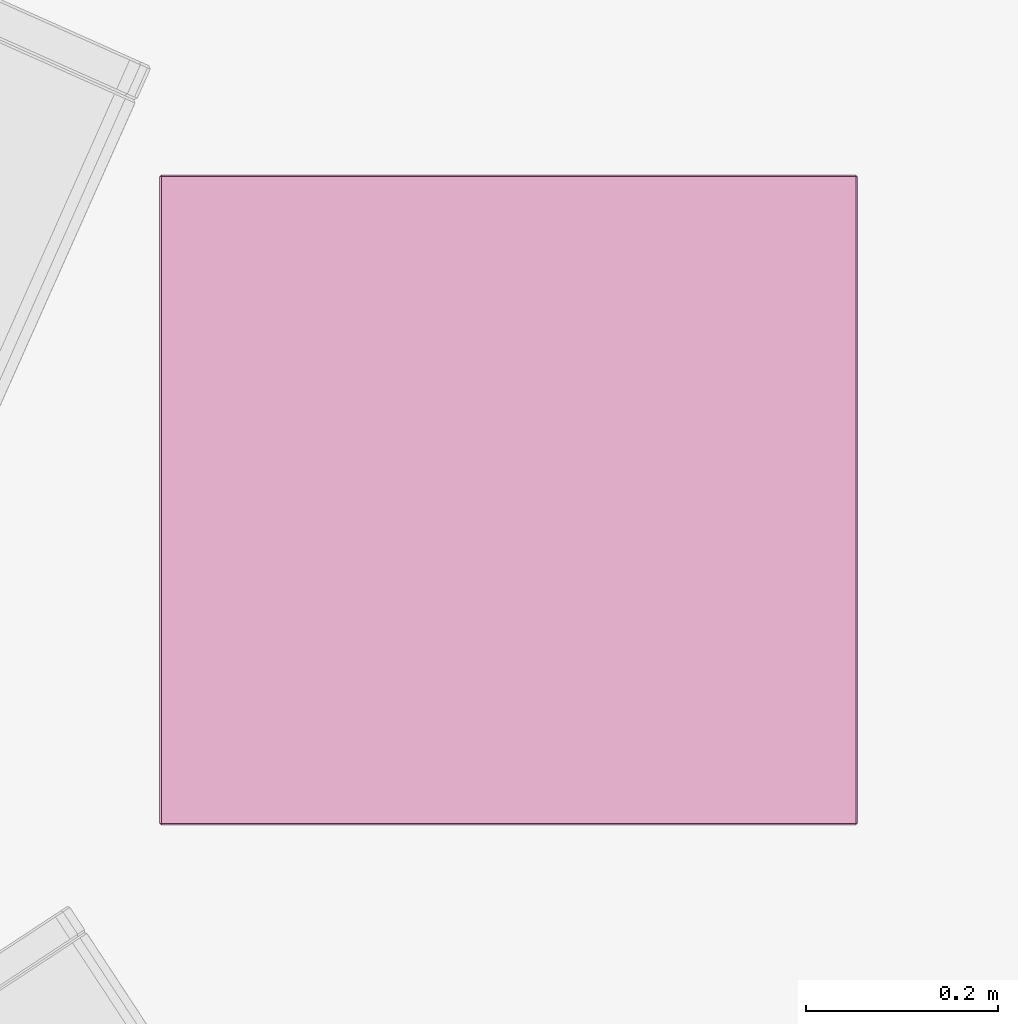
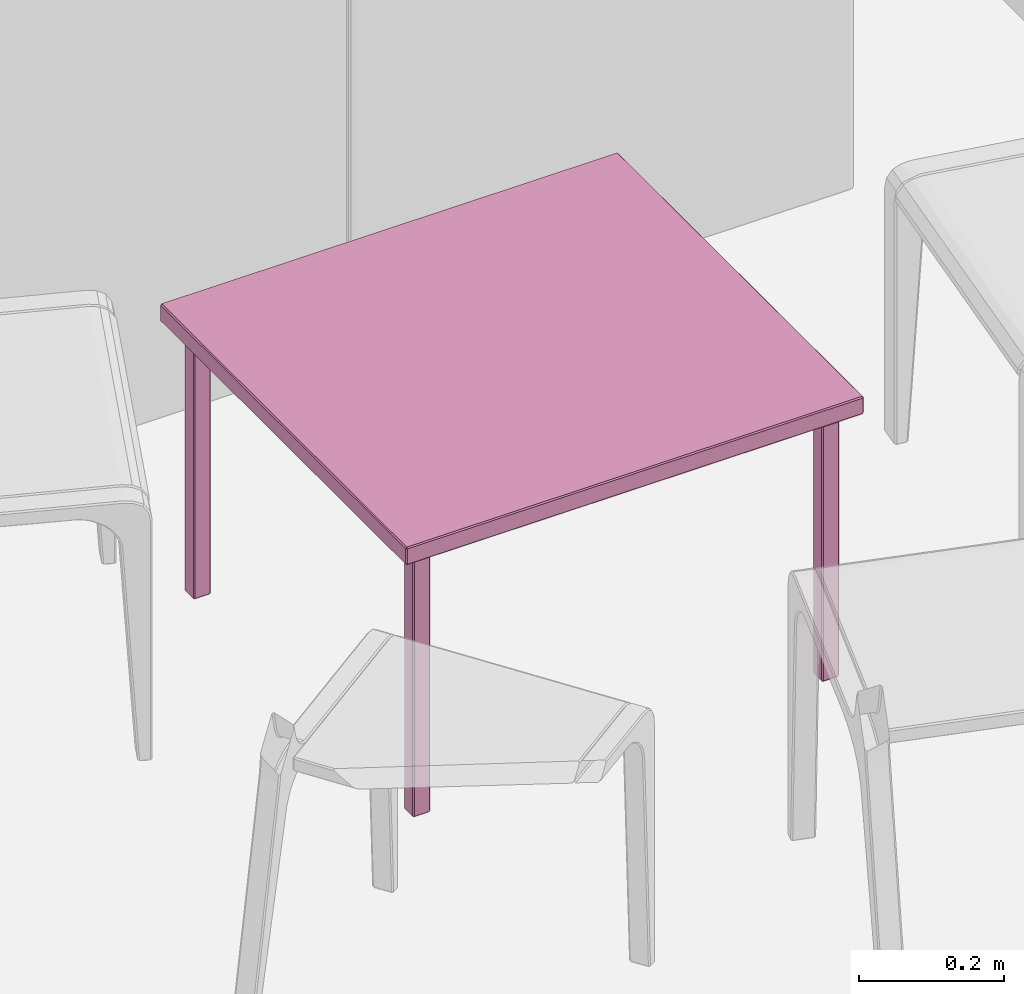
# One storey, part 10 of 26: 1 furniture element.
"""IFC4 building model written with IfcOpenShell, lengths in metres."""

from ifc_helpers import new_model, si_unit, direction, frame, origin_with_axes, place, context, project, spatial, polygons, type_object, element, save


model = new_model("IFC4")

# Units and contexts
model_context = context("Model", 3, precision=1e-05, world=origin_with_axes(), true_north=direction((0.996, -0.093, 0.0)))
ifc_project = project(units=[si_unit("LENGTHUNIT", "METRE"), si_unit("AREAUNIT", "SQUARE_METRE")], contexts=[model_context])

# Site, building, storey, space
site_placement = place(None, origin_with_axes())
site = spatial("IfcSite", under=ifc_project, at=site_placement, Name="Site", CompositionType="ELEMENT")
building_placement = place(site_placement, origin_with_axes())
building = spatial("IfcBuilding", under=site, at=building_placement, Name="Building", CompositionType="ELEMENT")
storey_placement = place(building_placement, frame((0.0, 0.0, 0.0500001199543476), z_axis=(0.0, 0.0, 1.0), x_axis=(1.0, 0.0, 0.0)))
storey = spatial("IfcBuildingStorey", under=building, at=storey_placement, Name="Story 0", CompositionType="ELEMENT", Elevation=0.0500000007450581)
space_placement = place(storey_placement, frame((9.93545334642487, 0.769256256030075, 0.0), z_axis=(0.0, 0.0, 1.0), x_axis=(1.0, 0.0, 0.0)))
space = spatial("IfcSpace", under=storey, at=space_placement, Name="021", CompositionType="ELEMENT")

# Furniture
furniture_type = type_object("IfcFurnitureType", Name="57241fe5-be7e-48c1-a422-350e2ccdd60f", AssemblyPlace="NOTDEFINED", PredefinedType="USERDEFINED")
furniture_placement = place(space_placement, frame((-1.344757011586, -1.14709060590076, 0.23827351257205), z_axis=(0.0, 0.0, 0.99999994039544), x_axis=(0.0, -0.999999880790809, 0.0)))
element("IfcFurniture", 1, at=furniture_placement, inside=space, type_object=furniture_type, Name="Table", ObjectType="Table", PredefinedType="USERDEFINED", context=model_context, shape_type="Tessellation", body=[
    polygons([(0.3369, 0.3635, 0.2106), (-0.3369, 0.3635, 0.2106), (0.3369, 0.3635, 0.2362), (-0.3369, 0.3635, 0.2362), (0.3369, 0.3635, 0.2362), (-0.3369, 0.3635, 0.2106), (0.2888, -0.3366, 0.216), (0.2888, -0.3127, 0.216), (0.2888, -0.3366, -0.2362), (0.2888, -0.3127, -0.2362), (0.2888, -0.3366, -0.2362), (0.2888, -0.3127, 0.216), (0.3127, -0.3384, 0.216), (0.2905, -0.3384, 0.216), (0.3127, -0.3384, -0.2362), (0.2905, -0.3384, -0.2362), (0.3127, -0.3384, -0.2362), (0.2905, -0.3384, 0.216), (0.3144, -0.3127, 0.216), (0.3144, -0.3366, 0.216), (0.3144, -0.3127, -0.2362), (0.3144, -0.3366, -0.2362), (0.3144, -0.3127, -0.2362), (0.3144, -0.3366, 0.216), (0.2905, -0.3109, 0.216), (0.3127, -0.3109, 0.216), (0.2905, -0.3109, -0.2362), (0.3127, -0.3109, -0.2362), (0.2905, -0.3109, -0.2362), (0.3127, -0.3109, 0.216), (0.2888, 0.3366, 0.216), (0.2888, 0.3366, -0.2362), (0.2888, 0.3127, 0.216), (0.2888, 0.3127, -0.2362), (0.2888, 0.3127, 0.216), (0.2888, 0.3366, -0.2362), (0.3127, 0.3384, 0.216), (0.3127, 0.3384, -0.2362), (0.2905, 0.3384, 0.216), (0.2905, 0.3384, -0.2362), (0.2905, 0.3384, 0.216), (0.3127, 0.3384, -0.2362), (0.3144, 0.3127, 0.216), (0.3144, 0.3127, -0.2362), (0.3144, 0.3366, 0.216), (0.3144, 0.3366, -0.2362), (0.3144, 0.3366, 0.216), (0.3144, 0.3127, -0.2362), (0.2905, 0.3109, 0.216), (0.2905, 0.3109, -0.2362), (0.3127, 0.3109, 0.216), (0.3127, 0.3109, -0.2362), (0.3127, 0.3109, 0.216), (0.2905, 0.3109, -0.2362), (0.3386, 0.3617, 0.2106), (0.3386, 0.3617, 0.2362), (0.3386, -0.3617, 0.2106), (0.3386, -0.3617, 0.2362), (0.3386, -0.3617, 0.2106), (0.3386, 0.3617, 0.2362), (-0.3386, 0.3617, 0.2362), (-0.3386, 0.3617, 0.2106), (-0.3386, -0.3617, 0.2362), (-0.3386, -0.3617, 0.2106), (-0.3386, -0.3617, 0.2362), (-0.3386, 0.3617, 0.2106), (-0.2888, -0.3366, 0.216), (-0.2888, -0.3366, -0.2362), (-0.2888, -0.3127, 0.216), (-0.2888, -0.3127, -0.2362), (-0.2888, -0.3127, 0.216), (-0.2888, -0.3366, -0.2362), (-0.3127, -0.3384, 0.216), (-0.3127, -0.3384, -0.2362), (-0.2905, -0.3384, 0.216), (-0.2905, -0.3384, -0.2362), (-0.2905, -0.3384, 0.216), (-0.3127, -0.3384, -0.2362), (-0.3144, -0.3127, 0.216), (-0.3144, -0.3127, -0.2362), (-0.3144, -0.3366, 0.216), (-0.3144, -0.3366, -0.2362), (-0.3144, -0.3366, 0.216), (-0.3144, -0.3127, -0.2362), (-0.2905, -0.3109, 0.216), (-0.2905, -0.3109, -0.2362), (-0.3127, -0.3109, 0.216), (-0.3127, -0.3109, -0.2362), (-0.3127, -0.3109, 0.216), (-0.2905, -0.3109, -0.2362), (-0.2888, 0.3366, 0.216), (-0.2888, 0.3127, 0.216), (-0.2888, 0.3366, -0.2362), (-0.2888, 0.3127, -0.2362), (-0.2888, 0.3366, -0.2362), (-0.2888, 0.3127, 0.216), (-0.3127, 0.3384, 0.216), (-0.2905, 0.3384, 0.216), (-0.3127, 0.3384, -0.2362), (-0.2905, 0.3384, -0.2362), (-0.3127, 0.3384, -0.2362), (-0.2905, 0.3384, 0.216), (-0.3144, 0.3127, 0.216), (-0.3144, 0.3366, 0.216), (-0.3144, 0.3127, -0.2362), (-0.3144, 0.3366, -0.2362), (-0.3144, 0.3127, -0.2362), (-0.3144, 0.3366, 0.216), (-0.2905, 0.3109, 0.216), (-0.3127, 0.3109, 0.216), (-0.2905, 0.3109, -0.2362), (-0.3127, 0.3109, -0.2362), (-0.2905, 0.3109, -0.2362), (-0.3127, 0.3109, 0.216), (-0.3369, 0.3617, 0.2383), (-0.3369, -0.3617, 0.2383), (0.3369, 0.3617, 0.2383), (0.3369, -0.3617, 0.2383), (0.3369, 0.3617, 0.2383), (-0.3369, -0.3617, 0.2383), (0.3369, -0.3635, 0.2106), (0.3369, -0.3635, 0.2362), (-0.3369, -0.3635, 0.2106), (-0.3369, -0.3635, 0.2362), (-0.3369, -0.3635, 0.2106), (0.3369, -0.3635, 0.2362), (0.3369, -0.3617, 0.2085), (-0.3369, -0.3617, 0.2085), (0.3369, 0.3617, 0.2085), (-0.3369, 0.3617, 0.2085), (0.3369, 0.3617, 0.2085), (-0.3369, -0.3617, 0.2085), (0.3127, -0.3366, 0.2181), (0.3127, -0.3127, 0.2181), (0.2905, -0.3366, 0.2181), (0.2905, -0.3127, 0.2181), (0.2905, -0.3366, 0.2181), (0.3127, -0.3127, 0.2181), (0.3127, -0.3127, -0.2383), (0.3127, -0.3366, -0.2383), (0.2905, -0.3127, -0.2383), (0.2905, -0.3366, -0.2383), (0.2905, -0.3127, -0.2383), (0.3127, -0.3366, -0.2383), (0.3127, 0.3366, -0.2383), (0.3127, 0.3127, -0.2383), (0.2905, 0.3366, -0.2383), (0.2905, 0.3127, -0.2383), (0.2905, 0.3366, -0.2383), (0.3127, 0.3127, -0.2383), (0.3127, 0.3127, 0.2181), (0.3127, 0.3366, 0.2181), (0.2905, 0.3127, 0.2181), (0.2905, 0.3366, 0.2181), (0.2905, 0.3127, 0.2181), (0.3127, 0.3366, 0.2181), (-0.3127, -0.3366, -0.2383), (-0.3127, -0.3127, -0.2383), (-0.2905, -0.3366, -0.2383), (-0.2905, -0.3127, -0.2383), (-0.2905, -0.3366, -0.2383), (-0.3127, -0.3127, -0.2383), (-0.3127, -0.3127, 0.2181), (-0.3127, -0.3366, 0.2181), (-0.2905, -0.3127, 0.2181), (-0.2905, -0.3366, 0.2181), (-0.2905, -0.3127, 0.2181), (-0.3127, -0.3366, 0.2181), (-0.3127, 0.3366, 0.2181), (-0.3127, 0.3127, 0.2181), (-0.2905, 0.3366, 0.2181), (-0.2905, 0.3127, 0.2181), (-0.2905, 0.3366, 0.2181), (-0.3127, 0.3127, 0.2181), (-0.3127, 0.3127, -0.2383), (-0.3127, 0.3366, -0.2383), (-0.2905, 0.3127, -0.2383), (-0.2905, 0.3366, -0.2383), (-0.2905, 0.3127, -0.2383), (-0.3127, 0.3366, -0.2383), (-0.3369, 0.3617, 0.2383), (-0.3369, 0.3635, 0.2362), (-0.3386, 0.3617, 0.2362), (0.2905, -0.3127, -0.2383), (0.2888, -0.3127, -0.2362), (0.2905, -0.3109, -0.2362), (0.2905, -0.3366, -0.2383), (0.2905, -0.3384, -0.2362), (0.2888, -0.3366, -0.2362), (0.3127, -0.3366, -0.2383), (0.3144, -0.3366, -0.2362), (0.3127, -0.3384, -0.2362), (0.3127, -0.3127, -0.2383), (0.3127, -0.3109, -0.2362), (0.3144, -0.3127, -0.2362), (0.2905, -0.3127, 0.2181), (0.2905, -0.3109, 0.216), (0.2888, -0.3127, 0.216), (0.2905, 0.3109, -0.2362), (0.2888, 0.3127, -0.2362), (0.2905, 0.3127, -0.2383), (0.2905, 0.3366, 0.2181), (0.2905, 0.3384, 0.216), (0.2888, 0.3366, 0.216), (0.3127, 0.3366, 0.2181), (0.3144, 0.3366, 0.216), (0.3127, 0.3384, 0.216), (0.3127, 0.3127, 0.2181), (0.3127, 0.3109, 0.216), (0.3144, 0.3127, 0.216), (0.3369, -0.3635, 0.2362), (0.3386, -0.3617, 0.2362), (0.3369, -0.3617, 0.2383), (0.3369, 0.3617, 0.2383), (0.3386, 0.3617, 0.2362), (0.3369, 0.3635, 0.2362), (-0.3369, -0.3635, 0.2106), (-0.3386, -0.3617, 0.2106), (-0.3369, -0.3617, 0.2085), (-0.3369, 0.3617, 0.2085), (-0.3386, 0.3617, 0.2106), (-0.3369, 0.3635, 0.2106), (-0.2905, -0.3109, -0.2362), (-0.2888, -0.3127, -0.2362), (-0.2905, -0.3127, -0.2383), (-0.2905, -0.3366, 0.2181), (-0.2905, -0.3384, 0.216), (-0.2888, -0.3366, 0.216), (-0.3127, -0.3366, 0.2181), (-0.3144, -0.3366, 0.216), (-0.3127, -0.3384, 0.216), (-0.3127, -0.3127, 0.2181), (-0.3127, -0.3109, 0.216), (-0.3144, -0.3127, 0.216), (-0.2905, 0.3127, -0.2383), (-0.2888, 0.3127, -0.2362), (-0.2905, 0.3109, -0.2362), (-0.2905, 0.3366, -0.2383), (-0.2905, 0.3384, -0.2362), (-0.2888, 0.3366, -0.2362), (-0.3127, 0.3366, -0.2383), (-0.3144, 0.3366, -0.2362), (-0.3127, 0.3384, -0.2362), (-0.3127, 0.3127, -0.2383), (-0.3127, 0.3109, -0.2362), (-0.3144, 0.3127, -0.2362), (-0.2905, 0.3127, 0.2181), (-0.2905, 0.3109, 0.216), (-0.2888, 0.3127, 0.216), (-0.3369, -0.3635, 0.2362), (-0.3369, -0.3617, 0.2383), (-0.3386, -0.3617, 0.2362), (0.3369, -0.3635, 0.2106), (0.3369, -0.3617, 0.2085), (0.3386, -0.3617, 0.2106), (0.3386, 0.3617, 0.2106), (0.3369, 0.3617, 0.2085), (0.3369, 0.3635, 0.2106), (0.3127, -0.3109, 0.216), (0.3127, -0.3127, 0.2181), (0.3144, -0.3127, 0.216), (0.3144, -0.3366, 0.216), (0.3127, -0.3366, 0.2181), (0.3127, -0.3384, 0.216), (0.2905, -0.3384, 0.216), (0.2905, -0.3366, 0.2181), (0.2888, -0.3366, 0.216), (0.3127, 0.3109, -0.2362), (0.3127, 0.3127, -0.2383), (0.3144, 0.3127, -0.2362), (0.3144, 0.3366, -0.2362), (0.3127, 0.3366, -0.2383), (0.3127, 0.3384, -0.2362), (0.2905, 0.3384, -0.2362), (0.2905, 0.3366, -0.2383), (0.2888, 0.3366, -0.2362), (0.2905, 0.3109, 0.216), (0.2905, 0.3127, 0.2181), (0.2888, 0.3127, 0.216), (-0.3127, -0.3109, -0.2362), (-0.3127, -0.3127, -0.2383), (-0.3144, -0.3127, -0.2362), (-0.3144, -0.3366, -0.2362), (-0.3127, -0.3366, -0.2383), (-0.3127, -0.3384, -0.2362), (-0.2905, -0.3384, -0.2362), (-0.2905, -0.3366, -0.2383), (-0.2888, -0.3366, -0.2362), (-0.2905, -0.3109, 0.216), (-0.2905, -0.3127, 0.2181), (-0.2888, -0.3127, 0.216), (-0.3127, 0.3109, 0.216), (-0.3127, 0.3127, 0.2181), (-0.3144, 0.3127, 0.216), (-0.3144, 0.3366, 0.216), (-0.3127, 0.3366, 0.2181), (-0.3127, 0.3384, 0.216), (-0.2905, 0.3384, 0.216), (-0.2905, 0.3366, 0.2181), (-0.2888, 0.3366, 0.216), (-0.3369, 0.3635, 0.2362), (-0.3369, 0.3635, 0.2106), (-0.3386, 0.3617, 0.2362), (-0.3386, 0.3617, 0.2106), (-0.3386, 0.3617, 0.2362), (-0.3369, 0.3635, 0.2106), (-0.3369, 0.3635, 0.2106), (0.3369, 0.3635, 0.2106), (-0.3369, 0.3617, 0.2085), (0.3369, 0.3617, 0.2085), (-0.3369, 0.3617, 0.2085), (0.3369, 0.3635, 0.2106), (0.3369, 0.3635, 0.2106), (0.3369, 0.3635, 0.2362), (0.3386, 0.3617, 0.2106), (0.3386, 0.3617, 0.2362), (0.3386, 0.3617, 0.2106), (0.3369, 0.3635, 0.2362), (0.3369, 0.3635, 0.2362), (-0.3369, 0.3635, 0.2362), (0.3369, 0.3617, 0.2383), (-0.3369, 0.3617, 0.2383), (0.3369, 0.3617, 0.2383), (-0.3369, 0.3635, 0.2362), (0.2888, -0.3127, -0.2362), (0.2888, -0.3127, 0.216), (0.2905, -0.3109, -0.2362), (0.2905, -0.3109, 0.216), (0.2905, -0.3109, -0.2362), (0.2888, -0.3127, 0.216), (0.2888, -0.3127, 0.216), (0.2888, -0.3366, 0.216), (0.2905, -0.3127, 0.2181), (0.2905, -0.3366, 0.2181), (0.2905, -0.3127, 0.2181), (0.2888, -0.3366, 0.216), (0.2888, -0.3366, 0.216), (0.2888, -0.3366, -0.2362), (0.2905, -0.3384, 0.216), (0.2905, -0.3384, -0.2362), (0.2905, -0.3384, 0.216), (0.2888, -0.3366, -0.2362), (0.2888, -0.3366, -0.2362), (0.2888, -0.3127, -0.2362), (0.2905, -0.3366, -0.2383), (0.2905, -0.3127, -0.2383), (0.2905, -0.3366, -0.2383), (0.2888, -0.3127, -0.2362), (0.2905, -0.3384, 0.216), (0.3127, -0.3384, 0.216), (0.2905, -0.3366, 0.2181), (0.3127, -0.3366, 0.2181), (0.2905, -0.3366, 0.2181), (0.3127, -0.3384, 0.216), (0.3127, -0.3384, 0.216), (0.3127, -0.3384, -0.2362), (0.3144, -0.3366, 0.216), (0.3144, -0.3366, -0.2362), (0.3144, -0.3366, 0.216), (0.3127, -0.3384, -0.2362), (0.3127, -0.3384, -0.2362), (0.2905, -0.3384, -0.2362), (0.3127, -0.3366, -0.2383), (0.2905, -0.3366, -0.2383), (0.3127, -0.3366, -0.2383), (0.2905, -0.3384, -0.2362), (0.3144, -0.3366, 0.216), (0.3144, -0.3127, 0.216), (0.3127, -0.3366, 0.2181), (0.3127, -0.3127, 0.2181), (0.3127, -0.3366, 0.2181), (0.3144, -0.3127, 0.216), (0.3144, -0.3127, 0.216), (0.3144, -0.3127, -0.2362), (0.3127, -0.3109, 0.216), (0.3127, -0.3109, -0.2362), (0.3127, -0.3109, 0.216), (0.3144, -0.3127, -0.2362), (0.3144, -0.3127, -0.2362), (0.3144, -0.3366, -0.2362), (0.3127, -0.3127, -0.2383), (0.3127, -0.3366, -0.2383), (0.3127, -0.3127, -0.2383), (0.3144, -0.3366, -0.2362), (0.3127, -0.3109, 0.216), (0.2905, -0.3109, 0.216), (0.3127, -0.3127, 0.2181), (0.2905, -0.3127, 0.2181), (0.3127, -0.3127, 0.2181), (0.2905, -0.3109, 0.216), (0.2905, -0.3109, -0.2362), (0.3127, -0.3109, -0.2362), (0.2905, -0.3127, -0.2383), (0.3127, -0.3127, -0.2383), (0.2905, -0.3127, -0.2383), (0.3127, -0.3109, -0.2362), (0.2888, 0.3127, -0.2362), (0.2888, 0.3366, -0.2362), (0.2905, 0.3127, -0.2383), (0.2905, 0.3366, -0.2383), (0.2905, 0.3127, -0.2383), (0.2888, 0.3366, -0.2362), (0.2888, 0.3366, -0.2362), (0.2888, 0.3366, 0.216), (0.2905, 0.3384, -0.2362), (0.2905, 0.3384, 0.216), (0.2905, 0.3384, -0.2362), (0.2888, 0.3366, 0.216), (0.2888, 0.3366, 0.216), (0.2888, 0.3127, 0.216), (0.2905, 0.3366, 0.2181), (0.2905, 0.3127, 0.2181), (0.2905, 0.3366, 0.2181), (0.2888, 0.3127, 0.216), (0.2888, 0.3127, 0.216), (0.2888, 0.3127, -0.2362), (0.2905, 0.3109, 0.216), (0.2905, 0.3109, -0.2362), (0.2905, 0.3109, 0.216), (0.2888, 0.3127, -0.2362), (0.2905, 0.3384, -0.2362), (0.3127, 0.3384, -0.2362), (0.2905, 0.3366, -0.2383), (0.3127, 0.3366, -0.2383), (0.2905, 0.3366, -0.2383), (0.3127, 0.3384, -0.2362), (0.3127, 0.3384, -0.2362), (0.3127, 0.3384, 0.216), (0.3144, 0.3366, -0.2362), (0.3144, 0.3366, 0.216), (0.3144, 0.3366, -0.2362), (0.3127, 0.3384, 0.216), (0.3127, 0.3384, 0.216), (0.2905, 0.3384, 0.216), (0.3127, 0.3366, 0.2181), (0.2905, 0.3366, 0.2181), (0.3127, 0.3366, 0.2181), (0.2905, 0.3384, 0.216), (0.3144, 0.3366, -0.2362), (0.3144, 0.3127, -0.2362), (0.3127, 0.3366, -0.2383), (0.3127, 0.3127, -0.2383), (0.3127, 0.3366, -0.2383), (0.3144, 0.3127, -0.2362), (0.3144, 0.3127, -0.2362), (0.3144, 0.3127, 0.216), (0.3127, 0.3109, -0.2362), (0.3127, 0.3109, 0.216), (0.3127, 0.3109, -0.2362), (0.3144, 0.3127, 0.216), (0.3144, 0.3127, 0.216), (0.3144, 0.3366, 0.216), (0.3127, 0.3127, 0.2181), (0.3127, 0.3366, 0.2181), (0.3127, 0.3127, 0.2181), (0.3144, 0.3366, 0.216), (0.3127, 0.3109, -0.2362), (0.2905, 0.3109, -0.2362), (0.3127, 0.3127, -0.2383), (0.2905, 0.3127, -0.2383), (0.3127, 0.3127, -0.2383), (0.2905, 0.3109, -0.2362), (0.2905, 0.3109, 0.216), (0.3127, 0.3109, 0.216), (0.2905, 0.3127, 0.2181), (0.3127, 0.3127, 0.2181), (0.2905, 0.3127, 0.2181), (0.3127, 0.3109, 0.216), (0.3386, -0.3617, 0.2362), (0.3386, 0.3617, 0.2362), (0.3369, -0.3617, 0.2383), (0.3369, 0.3617, 0.2383), (0.3369, -0.3617, 0.2383), (0.3386, 0.3617, 0.2362), (0.3386, 0.3617, 0.2106), (0.3386, -0.3617, 0.2106), (0.3369, 0.3617, 0.2085), (0.3369, -0.3617, 0.2085), (0.3369, 0.3617, 0.2085), (0.3386, -0.3617, 0.2106), (0.3386, -0.3617, 0.2106), (0.3386, -0.3617, 0.2362), (0.3369, -0.3635, 0.2106), (0.3369, -0.3635, 0.2362), (0.3369, -0.3635, 0.2106), (0.3386, -0.3617, 0.2362), (-0.3386, -0.3617, 0.2106), (-0.3386, 0.3617, 0.2106), (-0.3369, -0.3617, 0.2085), (-0.3369, 0.3617, 0.2085), (-0.3369, -0.3617, 0.2085), (-0.3386, 0.3617, 0.2106), (-0.3386, 0.3617, 0.2362), (-0.3386, -0.3617, 0.2362), (-0.3369, 0.3617, 0.2383), (-0.3369, -0.3617, 0.2383), (-0.3369, 0.3617, 0.2383), (-0.3386, -0.3617, 0.2362), (-0.3386, -0.3617, 0.2362), (-0.3386, -0.3617, 0.2106), (-0.3369, -0.3635, 0.2362), (-0.3369, -0.3635, 0.2106), (-0.3369, -0.3635, 0.2362), (-0.3386, -0.3617, 0.2106), (-0.2888, -0.3127, -0.2362), (-0.2888, -0.3366, -0.2362), (-0.2905, -0.3127, -0.2383), (-0.2905, -0.3366, -0.2383), (-0.2905, -0.3127, -0.2383), (-0.2888, -0.3366, -0.2362), (-0.2888, -0.3366, -0.2362), (-0.2888, -0.3366, 0.216), (-0.2905, -0.3384, -0.2362), (-0.2905, -0.3384, 0.216), (-0.2905, -0.3384, -0.2362), (-0.2888, -0.3366, 0.216), (-0.2888, -0.3366, 0.216), (-0.2888, -0.3127, 0.216), (-0.2905, -0.3366, 0.2181), (-0.2905, -0.3127, 0.2181), (-0.2905, -0.3366, 0.2181), (-0.2888, -0.3127, 0.216), (-0.2888, -0.3127, 0.216), (-0.2888, -0.3127, -0.2362), (-0.2905, -0.3109, 0.216), (-0.2905, -0.3109, -0.2362), (-0.2905, -0.3109, 0.216), (-0.2888, -0.3127, -0.2362), (-0.2905, -0.3384, -0.2362), (-0.3127, -0.3384, -0.2362), (-0.2905, -0.3366, -0.2383), (-0.3127, -0.3366, -0.2383), (-0.2905, -0.3366, -0.2383), (-0.3127, -0.3384, -0.2362), (-0.3127, -0.3384, -0.2362), (-0.3127, -0.3384, 0.216), (-0.3144, -0.3366, -0.2362), (-0.3144, -0.3366, 0.216), (-0.3144, -0.3366, -0.2362), (-0.3127, -0.3384, 0.216), (-0.3127, -0.3384, 0.216), (-0.2905, -0.3384, 0.216), (-0.3127, -0.3366, 0.2181), (-0.2905, -0.3366, 0.2181), (-0.3127, -0.3366, 0.2181), (-0.2905, -0.3384, 0.216), (-0.3144, -0.3366, -0.2362), (-0.3144, -0.3127, -0.2362), (-0.3127, -0.3366, -0.2383), (-0.3127, -0.3127, -0.2383), (-0.3127, -0.3366, -0.2383), (-0.3144, -0.3127, -0.2362), (-0.3144, -0.3127, -0.2362), (-0.3144, -0.3127, 0.216), (-0.3127, -0.3109, -0.2362), (-0.3127, -0.3109, 0.216), (-0.3127, -0.3109, -0.2362), (-0.3144, -0.3127, 0.216), (-0.3144, -0.3127, 0.216), (-0.3144, -0.3366, 0.216), (-0.3127, -0.3127, 0.2181), (-0.3127, -0.3366, 0.2181), (-0.3127, -0.3127, 0.2181), (-0.3144, -0.3366, 0.216), (-0.3127, -0.3109, -0.2362), (-0.2905, -0.3109, -0.2362), (-0.3127, -0.3127, -0.2383), (-0.2905, -0.3127, -0.2383), (-0.3127, -0.3127, -0.2383), (-0.2905, -0.3109, -0.2362), (-0.2905, -0.3109, 0.216), (-0.3127, -0.3109, 0.216), (-0.2905, -0.3127, 0.2181), (-0.3127, -0.3127, 0.2181), (-0.2905, -0.3127, 0.2181), (-0.3127, -0.3109, 0.216), (-0.2888, 0.3127, -0.2362), (-0.2888, 0.3127, 0.216), (-0.2905, 0.3109, -0.2362), (-0.2905, 0.3109, 0.216), (-0.2905, 0.3109, -0.2362), (-0.2888, 0.3127, 0.216), (-0.2888, 0.3127, 0.216), (-0.2888, 0.3366, 0.216), (-0.2905, 0.3127, 0.2181), (-0.2905, 0.3366, 0.2181), (-0.2905, 0.3127, 0.2181), (-0.2888, 0.3366, 0.216), (-0.2888, 0.3366, 0.216), (-0.2888, 0.3366, -0.2362), (-0.2905, 0.3384, 0.216), (-0.2905, 0.3384, -0.2362), (-0.2905, 0.3384, 0.216), (-0.2888, 0.3366, -0.2362), (-0.2888, 0.3366, -0.2362), (-0.2888, 0.3127, -0.2362), (-0.2905, 0.3366, -0.2383), (-0.2905, 0.3127, -0.2383), (-0.2905, 0.3366, -0.2383), (-0.2888, 0.3127, -0.2362), (-0.2905, 0.3384, 0.216), (-0.3127, 0.3384, 0.216), (-0.2905, 0.3366, 0.2181), (-0.3127, 0.3366, 0.2181), (-0.2905, 0.3366, 0.2181), (-0.3127, 0.3384, 0.216), (-0.3127, 0.3384, 0.216), (-0.3127, 0.3384, -0.2362), (-0.3144, 0.3366, 0.216), (-0.3144, 0.3366, -0.2362), (-0.3144, 0.3366, 0.216), (-0.3127, 0.3384, -0.2362), (-0.3127, 0.3384, -0.2362), (-0.2905, 0.3384, -0.2362), (-0.3127, 0.3366, -0.2383), (-0.2905, 0.3366, -0.2383), (-0.3127, 0.3366, -0.2383), (-0.2905, 0.3384, -0.2362), (-0.3144, 0.3366, 0.216), (-0.3144, 0.3127, 0.216), (-0.3127, 0.3366, 0.2181), (-0.3127, 0.3127, 0.2181), (-0.3127, 0.3366, 0.2181), (-0.3144, 0.3127, 0.216), (-0.3144, 0.3127, 0.216), (-0.3144, 0.3127, -0.2362), (-0.3127, 0.3109, 0.216), (-0.3127, 0.3109, -0.2362), (-0.3127, 0.3109, 0.216), (-0.3144, 0.3127, -0.2362), (-0.3144, 0.3127, -0.2362), (-0.3144, 0.3366, -0.2362), (-0.3127, 0.3127, -0.2383), (-0.3127, 0.3366, -0.2383), (-0.3127, 0.3127, -0.2383), (-0.3144, 0.3366, -0.2362), (-0.3127, 0.3109, 0.216), (-0.2905, 0.3109, 0.216), (-0.3127, 0.3127, 0.2181), (-0.2905, 0.3127, 0.2181), (-0.3127, 0.3127, 0.2181), (-0.2905, 0.3109, 0.216), (-0.2905, 0.3109, -0.2362), (-0.3127, 0.3109, -0.2362), (-0.2905, 0.3127, -0.2383), (-0.3127, 0.3127, -0.2383), (-0.2905, 0.3127, -0.2383), (-0.3127, 0.3109, -0.2362), (0.3369, -0.3617, 0.2383), (-0.3369, -0.3617, 0.2383), (0.3369, -0.3635, 0.2362), (-0.3369, -0.3635, 0.2362), (0.3369, -0.3635, 0.2362), (-0.3369, -0.3617, 0.2383), (0.3369, -0.3635, 0.2106), (-0.3369, -0.3635, 0.2106), (0.3369, -0.3617, 0.2085), (-0.3369, -0.3617, 0.2085), (0.3369, -0.3617, 0.2085), (-0.3369, -0.3635, 0.2106)], [[[1, 2, 3]], [[4, 5, 6]], [[7, 8, 9]], [[10, 11, 12]], [[13, 14, 15]], [[16, 17, 18]], [[19, 20, 21]], [[22, 23, 24]], [[25, 26, 27]], [[28, 29, 30]], [[31, 32, 33]], [[34, 35, 36]], [[37, 38, 39]], [[40, 41, 42]], [[43, 44, 45]], [[46, 47, 48]], [[49, 50, 51]], [[52, 53, 54]], [[55, 56, 57]], [[58, 59, 60]], [[61, 62, 63]], [[64, 65, 66]], [[67, 68, 69]], [[70, 71, 72]], [[73, 74, 75]], [[76, 77, 78]], [[79, 80, 81]], [[82, 83, 84]], [[85, 86, 87]], [[88, 89, 90]], [[91, 92, 93]], [[94, 95, 96]], [[97, 98, 99]], [[100, 101, 102]], [[103, 104, 105]], [[106, 107, 108]], [[109, 110, 111]], [[112, 113, 114]], [[115, 116, 117]], [[118, 119, 120]], [[121, 122, 123]], [[124, 125, 126]], [[127, 128, 129]], [[130, 131, 132]], [[133, 134, 135]], [[136, 137, 138]], [[139, 140, 141]], [[142, 143, 144]], [[145, 146, 147]], [[148, 149, 150]], [[151, 152, 153]], [[154, 155, 156]], [[157, 158, 159]], [[160, 161, 162]], [[163, 164, 165]], [[166, 167, 168]], [[169, 170, 171]], [[172, 173, 174]], [[175, 176, 177]], [[178, 179, 180]], [[181, 182, 183]], [[184, 185, 186]], [[187, 188, 189]], [[190, 191, 192]], [[193, 194, 195]], [[196, 197, 198]], [[199, 200, 201]], [[202, 203, 204]], [[205, 206, 207]], [[208, 209, 210]], [[211, 212, 213]], [[214, 215, 216]], [[217, 218, 219]], [[220, 221, 222]], [[223, 224, 225]], [[226, 227, 228]], [[229, 230, 231]], [[232, 233, 234]], [[235, 236, 237]], [[238, 239, 240]], [[241, 242, 243]], [[244, 245, 246]], [[247, 248, 249]], [[250, 251, 252]], [[253, 254, 255]], [[256, 257, 258]], [[259, 260, 261]], [[262, 263, 264]], [[265, 266, 267]], [[268, 269, 270]], [[271, 272, 273]], [[274, 275, 276]], [[277, 278, 279]], [[280, 281, 282]], [[283, 284, 285]], [[286, 287, 288]], [[289, 290, 291]], [[292, 293, 294]], [[295, 296, 297]], [[298, 299, 300]], [[301, 302, 303]], [[304, 305, 306]], [[307, 308, 309]], [[310, 311, 312]], [[313, 314, 315]], [[316, 317, 318]], [[319, 320, 321]], [[322, 323, 324]], [[325, 326, 327]], [[328, 329, 330]], [[331, 332, 333]], [[334, 335, 336]], [[337, 338, 339]], [[340, 341, 342]], [[343, 344, 345]], [[346, 347, 348]], [[349, 350, 351]], [[352, 353, 354]], [[355, 356, 357]], [[358, 359, 360]], [[361, 362, 363]], [[364, 365, 366]], [[367, 368, 369]], [[370, 371, 372]], [[373, 374, 375]], [[376, 377, 378]], [[379, 380, 381]], [[382, 383, 384]], [[385, 386, 387]], [[388, 389, 390]], [[391, 392, 393]], [[394, 395, 396]], [[397, 398, 399]], [[400, 401, 402]], [[403, 404, 405]], [[406, 407, 408]], [[409, 410, 411]], [[412, 413, 414]], [[415, 416, 417]], [[418, 419, 420]], [[421, 422, 423]], [[424, 425, 426]], [[427, 428, 429]], [[430, 431, 432]], [[433, 434, 435]], [[436, 437, 438]], [[439, 440, 441]], [[442, 443, 444]], [[445, 446, 447]], [[448, 449, 450]], [[451, 452, 453]], [[454, 455, 456]], [[457, 458, 459]], [[460, 461, 462]], [[463, 464, 465]], [[466, 467, 468]], [[469, 470, 471]], [[472, 473, 474]], [[475, 476, 477]], [[478, 479, 480]], [[481, 482, 483]], [[484, 485, 486]], [[487, 488, 489]], [[490, 491, 492]], [[493, 494, 495]], [[496, 497, 498]], [[499, 500, 501]], [[502, 503, 504]], [[505, 506, 507]], [[508, 509, 510]], [[511, 512, 513]], [[514, 515, 516]], [[517, 518, 519]], [[520, 521, 522]], [[523, 524, 525]], [[526, 527, 528]], [[529, 530, 531]], [[532, 533, 534]], [[535, 536, 537]], [[538, 539, 540]], [[541, 542, 543]], [[544, 545, 546]], [[547, 548, 549]], [[550, 551, 552]], [[553, 554, 555]], [[556, 557, 558]], [[559, 560, 561]], [[562, 563, 564]], [[565, 566, 567]], [[568, 569, 570]], [[571, 572, 573]], [[574, 575, 576]], [[577, 578, 579]], [[580, 581, 582]], [[583, 584, 585]], [[586, 587, 588]], [[589, 590, 591]], [[592, 593, 594]], [[595, 596, 597]], [[598, 599, 600]], [[601, 602, 603]], [[604, 605, 606]], [[607, 608, 609]], [[610, 611, 612]], [[613, 614, 615]], [[616, 617, 618]], [[619, 620, 621]], [[622, 623, 624]], [[625, 626, 627]], [[628, 629, 630]], [[631, 632, 633]], [[634, 635, 636]], [[637, 638, 639]], [[640, 641, 642]], [[643, 644, 645]], [[646, 647, 648]], [[649, 650, 651]], [[652, 653, 654]], [[655, 656, 657]], [[658, 659, 660]]]),
])

save(model, "model.ifc")
